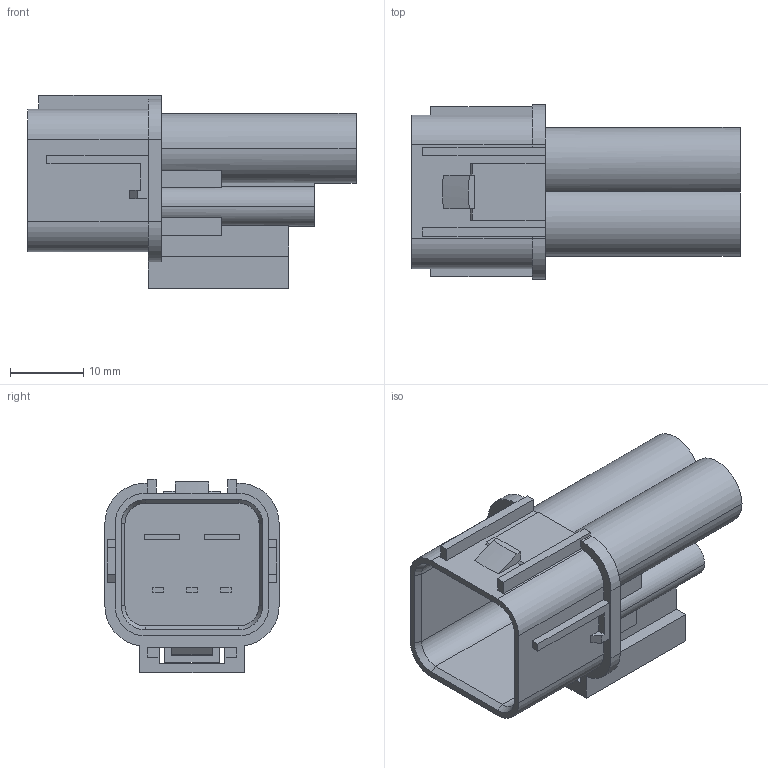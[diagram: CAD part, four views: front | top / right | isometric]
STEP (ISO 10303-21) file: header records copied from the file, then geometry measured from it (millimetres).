
FILE_DESCRIPTION(('CATIA V5 STEP','CAx-IF Rec.Pracs.--- Model Styling and Organization---1.5--- 2016-08-15','CAx-IF Rec.Pracs.---Supplemental Geometry---1.0---2011-11-01','CAx-IF Rec.Pracs.--- Composite Materials ---1.1---2010-07-15'),'2;1');
FILE_NAME('\\192.168.6.3\catia5_db\C-DAM_MyDesk\CONE2\COMMON\HONDA\3D_catalog\HX060_187\HX63+82M-DGR\6181-6921.stp','2026-02-20T05:39:01+00:00',('none'),('none'),'CATIA Version 5-6 Release 2022 SP2 HF23','CATIA V5 STEP AP214 v2','none');
FILE_SCHEMA(('AUTOMOTIVE_DESIGN { 1 0 10303 214 1 1 1 1 }'));
Length unit declared in the file: millimetre
Products named in the file (1): 6181-6921
Bounding box: 44.8 x 23.8 x 26.35 mm (x, y, z)
Volume: 8721.7 mm3; surface area: 7217.3 mm2
Topology: 1 solids, 1 shells, 193 faces, 563 edges, 381 vertices
Faces by surface type: plane 151, cylinder 37, cone 4, extrusion 1
Entity records: 6301 total; most frequent: CARTESIAN_POINT 1441, ORIENTED_EDGE 1126, DIRECTION 796, EDGE_CURVE 563, VECTOR 450, LINE 449, VERTEX_POINT 381, AXIS2_PLACEMENT_3D 213
